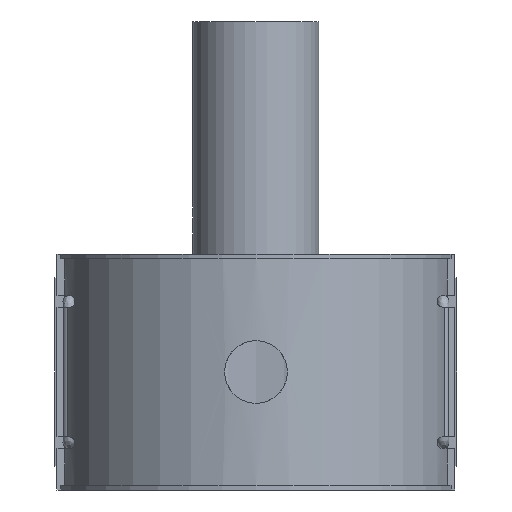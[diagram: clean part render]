
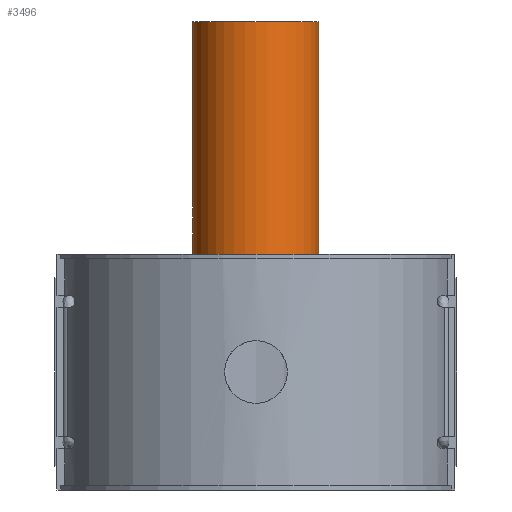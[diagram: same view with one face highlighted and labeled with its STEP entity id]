
A CAD part, front view. The second image highlights one B-rep face of the part: STEP entity #3496.
In plain terms, the highlighted cylindrical face has radius 31.5 mm (diameter 63 mm), a full revolution.
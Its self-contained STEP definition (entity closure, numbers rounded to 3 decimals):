
#311=CIRCLE('',#3829,31.5);
#312=CIRCLE('',#3830,31.5);
#313=CIRCLE('',#3831,31.5);
#314=CIRCLE('',#3832,31.5);
#514=FACE_OUTER_BOUND('',#734,.T.);
#734=EDGE_LOOP('',(#3235,#3236,#3237,#3238,#3239,#3240));
#1046=LINE('',#7268,#1354);
#1354=VECTOR('',#4766,31.5);
#1738=VERTEX_POINT('',#7263);
#1739=VERTEX_POINT('',#7264);
#1740=VERTEX_POINT('',#7267);
#1741=VERTEX_POINT('',#7269);
#2239=EDGE_CURVE('',#1738,#1739,#311,.T.);
#2240=EDGE_CURVE('',#1739,#1738,#312,.T.);
#2241=EDGE_CURVE('',#1739,#1740,#1046,.T.);
#2242=EDGE_CURVE('',#1740,#1741,#313,.T.);
#2243=EDGE_CURVE('',#1741,#1740,#314,.T.);
#3235=ORIENTED_EDGE('',*,*,#2239,.F.);
#3236=ORIENTED_EDGE('',*,*,#2240,.F.);
#3237=ORIENTED_EDGE('',*,*,#2241,.T.);
#3238=ORIENTED_EDGE('',*,*,#2242,.T.);
#3239=ORIENTED_EDGE('',*,*,#2243,.T.);
#3240=ORIENTED_EDGE('',*,*,#2241,.F.);
#3304=CYLINDRICAL_SURFACE('',#3828,31.5);
#3496=ADVANCED_FACE('',(#514),#3304,.T.);
#3828=AXIS2_PLACEMENT_3D('',#7262,#4760,#4761);
#3829=AXIS2_PLACEMENT_3D('',#7265,#4762,#4763);
#3830=AXIS2_PLACEMENT_3D('',#7266,#4764,#4765);
#3831=AXIS2_PLACEMENT_3D('',#7270,#4767,#4768);
#3832=AXIS2_PLACEMENT_3D('',#7271,#4769,#4770);
#4760=DIRECTION('center_axis',(0.,0.,1.));
#4761=DIRECTION('ref_axis',(0.,-1.,0.));
#4762=DIRECTION('center_axis',(0.,0.,1.));
#4763=DIRECTION('ref_axis',(1.,0.,0.));
#4764=DIRECTION('center_axis',(0.,0.,1.));
#4765=DIRECTION('ref_axis',(1.,0.,0.));
#4766=DIRECTION('',(0.,0.,-1.));
#4767=DIRECTION('center_axis',(0.,0.,1.));
#4768=DIRECTION('ref_axis',(1.,0.,0.));
#4769=DIRECTION('center_axis',(0.,0.,1.));
#4770=DIRECTION('ref_axis',(1.,0.,0.));
#7262=CARTESIAN_POINT('Origin',(0.,144.,87.5));
#7263=CARTESIAN_POINT('',(0.,112.5,175.));
#7264=CARTESIAN_POINT('',(0.,175.5,175.));
#7265=CARTESIAN_POINT('Origin',(0.,144.,175.));
#7266=CARTESIAN_POINT('Origin',(0.,144.,175.));
#7267=CARTESIAN_POINT('',(0.,175.5,0.));
#7268=CARTESIAN_POINT('',(0.,175.5,87.5));
#7269=CARTESIAN_POINT('',(0.,112.5,0.));
#7270=CARTESIAN_POINT('Origin',(0.,144.,0.));
#7271=CARTESIAN_POINT('Origin',(0.,144.,0.));
